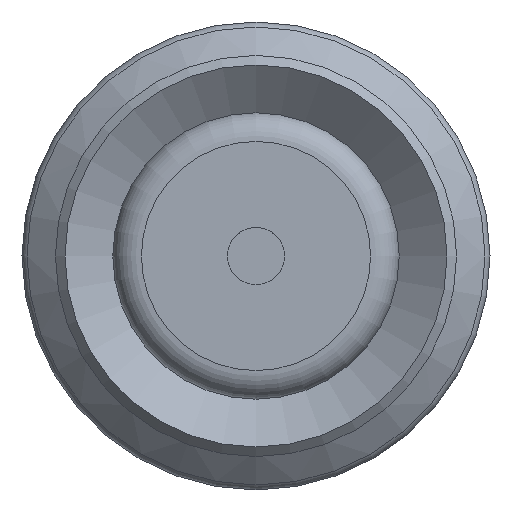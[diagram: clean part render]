
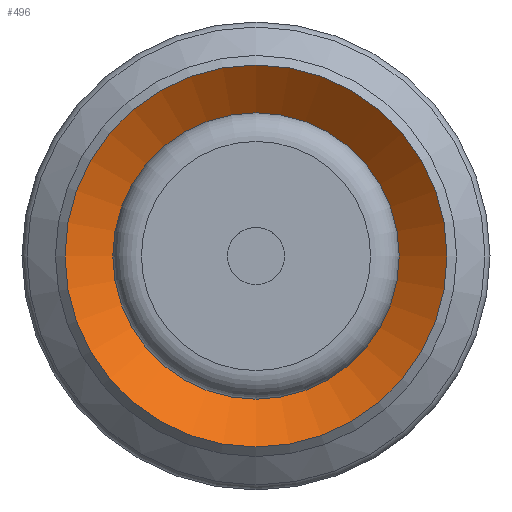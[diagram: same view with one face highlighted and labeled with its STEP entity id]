
A CAD part, front view. The second image highlights one B-rep face of the part: STEP entity #496.
In plain terms, the highlighted conical face has half-angle 52 degrees and reference radius 3 mm.
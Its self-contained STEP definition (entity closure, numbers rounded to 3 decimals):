
#496=ADVANCED_FACE('',(#744,#745),#746,.F.);
#744=FACE_BOUND('',#1005,.T.);
#745=FACE_OUTER_BOUND('',#1006,.T.);
#746=CONICAL_SURFACE('',#1007,3.0,0.908);
#1005=EDGE_LOOP('',(#1683));
#1006=EDGE_LOOP('',(#1684));
#1007=AXIS2_PLACEMENT_3D('',#1685,#1686,#1687);
#1683=ORIENTED_EDGE('',*,*,#1900,.F.);
#1684=ORIENTED_EDGE('',*,*,#1893,.T.);
#1685=CARTESIAN_POINT('',(0.0,7.741,0.));
#1686=DIRECTION('',(-0.0,-1.0,0.));
#1687=DIRECTION('',(0.0,0.,-1.0));
#1893=EDGE_CURVE('',#2197,#2197,#2198,.T.);
#1900=EDGE_CURVE('',#2211,#2211,#2212,.T.);
#2197=VERTEX_POINT('',#2887);
#2198=CIRCLE('',#2888,4.0);
#2211=VERTEX_POINT('',#2901);
#2212=CIRCLE('',#2902,3.0);
#2887=CARTESIAN_POINT('',(0.0,6.96,-4.0));
#2888=AXIS2_PLACEMENT_3D('',#3162,#3163,#3164);
#2901=CARTESIAN_POINT('',(0.0,7.741,-3.0));
#2902=AXIS2_PLACEMENT_3D('',#3183,#3184,#3185);
#3162=CARTESIAN_POINT('',(0.0,6.96,0.0));
#3163=DIRECTION('',(0.0,-1.0,0.));
#3164=DIRECTION('',(0.0,0.,-1.0));
#3183=CARTESIAN_POINT('',(0.0,7.741,0.));
#3184=DIRECTION('',(0.0,-1.0,0.));
#3185=DIRECTION('',(0.0,0.,-1.0));
